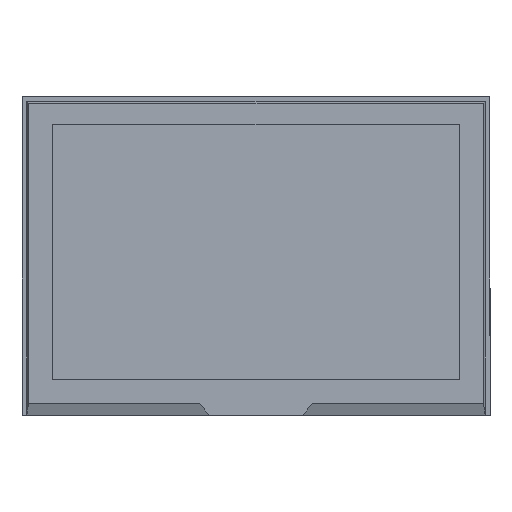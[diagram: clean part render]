
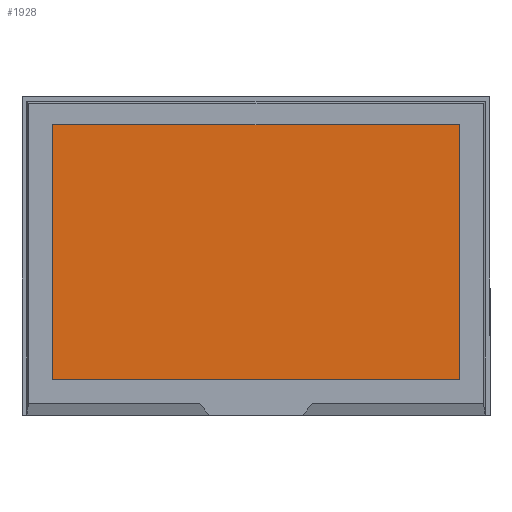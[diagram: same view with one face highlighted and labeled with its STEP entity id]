
A CAD part, top view. The second image highlights one B-rep face of the part: STEP entity #1928.
In plain terms, the highlighted planar face has unit normal (0, 0, 1).
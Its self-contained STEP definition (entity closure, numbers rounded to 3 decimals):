
#658 = AXIS2_PLACEMENT_3D ( 'NONE', #3036, #3037, #3035 ) ;
#860 = EDGE_CURVE ( 'NONE', #2249, #2283, #1740, .T. ) ;
#863 = EDGE_CURVE ( 'NONE', #2283, #2358, #1746, .T. ) ;
#865 = EDGE_CURVE ( 'NONE', #2358, #2142, #1750, .T. ) ;
#866 = EDGE_CURVE ( 'NONE', #2142, #2249, #1752, .T. ) ;
#1062 = CARTESIAN_POINT ( 'NONE',  ( 108.5, -66., 0.1 ) ) ;
#1198 = CARTESIAN_POINT ( 'NONE',  ( 108.5, 70., 0.1 ) ) ;
#1269 = CARTESIAN_POINT ( 'NONE',  ( -108.5, 70., 0.1 ) ) ;
#1271 = CARTESIAN_POINT ( 'NONE',  ( -108.5, -66., 0.1 ) ) ;
#1420 = ORIENTED_EDGE ( 'NONE', *, *, #866, .T. ) ;
#1421 = ORIENTED_EDGE ( 'NONE', *, *, #865, .T. ) ;
#1422 = ORIENTED_EDGE ( 'NONE', *, *, #863, .T. ) ;
#1423 = ORIENTED_EDGE ( 'NONE', *, *, #860, .T. ) ;
#1740 = LINE ( 'NONE', #2907, #1741 ) ;
#1741 = VECTOR ( 'NONE', #2912, 1000. ) ;
#1746 = LINE ( 'NONE', #2972, #1747 ) ;
#1747 = VECTOR ( 'NONE', #2876, 1000. ) ;
#1750 = LINE ( 'NONE', #2854, #1751 ) ;
#1751 = VECTOR ( 'NONE', #2800, 1000. ) ;
#1752 = LINE ( 'NONE', #2992, #1753 ) ;
#1753 = VECTOR ( 'NONE', #2863, 1000. ) ;
#1783 = FACE_OUTER_BOUND ( 'NONE', #1922, .T. ) ;
#1922 = EDGE_LOOP ( 'NONE', ( #1423, #1422, #1421, #1420 ) ) ;
#1928 = ADVANCED_FACE ( 'NONE', ( #1783 ), #2991, .T. ) ;
#2142 = VERTEX_POINT ( 'NONE', #1198 ) ;
#2249 = VERTEX_POINT ( 'NONE', #1269 ) ;
#2283 = VERTEX_POINT ( 'NONE', #1271 ) ;
#2358 = VERTEX_POINT ( 'NONE', #1062 ) ;
#2800 = DIRECTION ( 'NONE',  ( 0., 1., 0. ) ) ;
#2854 = CARTESIAN_POINT ( 'NONE',  ( 108.5, 70., 0.1 ) ) ;
#2863 = DIRECTION ( 'NONE',  ( -1., 0., 0. ) ) ;
#2876 = DIRECTION ( 'NONE',  ( 1., 0., 0. ) ) ;
#2907 = CARTESIAN_POINT ( 'NONE',  ( -108.5, 70., 0.1 ) ) ;
#2912 = DIRECTION ( 'NONE',  ( 0., -1., 0. ) ) ;
#2972 = CARTESIAN_POINT ( 'NONE',  ( -108.5, -66., 0.1 ) ) ;
#2991 = PLANE ( 'NONE',  #658 ) ;
#2992 = CARTESIAN_POINT ( 'NONE',  ( -108.5, 70., 0.1 ) ) ;
#3035 = DIRECTION ( 'NONE',  ( 1., 0., 0. ) ) ;
#3036 = CARTESIAN_POINT ( 'NONE',  ( -108.5, -66., 0.1 ) ) ;
#3037 = DIRECTION ( 'NONE',  ( 0., 0., 1. ) ) ;
